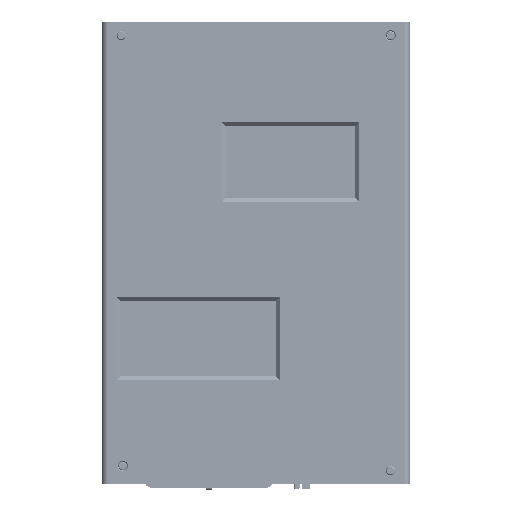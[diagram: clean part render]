
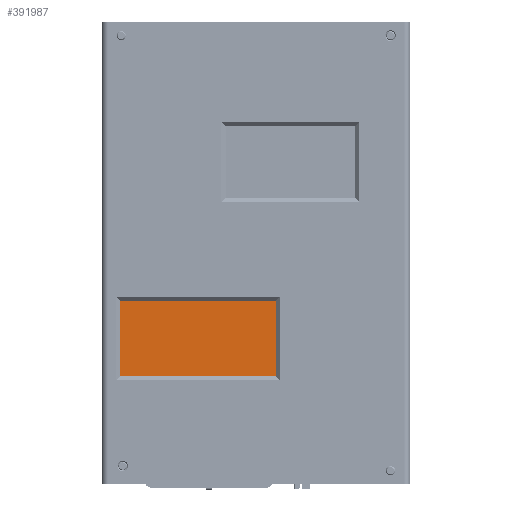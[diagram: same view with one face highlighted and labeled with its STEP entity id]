
A CAD part, front view. The second image highlights one B-rep face of the part: STEP entity #391987.
In plain terms, the highlighted planar face has unit normal (0, -1, 0).
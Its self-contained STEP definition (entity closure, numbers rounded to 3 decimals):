
#126402=DIRECTION('',(0.,0.,1.));
#126403=VECTOR('',#126402,24.775);
#126404=CARTESIAN_POINT('',(-44.737,1.4,-116.737));
#126405=LINE('',#126404,#126403);
#126409=DIRECTION('',(1.,0.,0.));
#126410=VECTOR('',#126409,51.275);
#126411=CARTESIAN_POINT('',(-44.737,1.4,-91.963));
#126412=LINE('',#126411,#126410);
#126416=DIRECTION('',(0.,0.,-1.));
#126417=VECTOR('',#126416,24.775);
#126418=CARTESIAN_POINT('',(6.537,1.4,-91.963));
#126419=LINE('',#126418,#126417);
#126423=DIRECTION('',(-1.,0.,0.));
#126424=VECTOR('',#126423,51.275);
#126425=CARTESIAN_POINT('',(6.537,1.4,-116.737));
#126426=LINE('',#126425,#126424);
#237324=CARTESIAN_POINT('',(-44.737,1.4,-116.737));
#237325=CARTESIAN_POINT('',(-44.737,1.4,-91.963));
#237326=VERTEX_POINT('',#237324);
#237327=VERTEX_POINT('',#237325);
#237328=CARTESIAN_POINT('',(6.537,1.4,-116.737));
#237329=VERTEX_POINT('',#237328);
#237330=CARTESIAN_POINT('',(6.537,1.4,-91.963));
#237331=VERTEX_POINT('',#237330);
#391976=CARTESIAN_POINT('',(-19.1,1.4,-104.35));
#391977=DIRECTION('',(0.,-1.,0.));
#391978=DIRECTION('',(1.,0.,0.));
#391979=AXIS2_PLACEMENT_3D('',#391976,#391977,#391978);
#391980=PLANE('',#391979);
#391981=ORIENTED_EDGE('',*,*,#391963,.T.);
#391982=ORIENTED_EDGE('',*,*,#391900,.T.);
#391983=ORIENTED_EDGE('',*,*,#391922,.T.);
#391984=ORIENTED_EDGE('',*,*,#391943,.T.);
#391985=EDGE_LOOP('',(#391981,#391982,#391983,#391984));
#391986=FACE_OUTER_BOUND('',#391985,.F.);
#391987=ADVANCED_FACE('',(#391986),#391980,.T.);
#391900=EDGE_CURVE('',#237327,#237331,#126412,.T.);
#391922=EDGE_CURVE('',#237331,#237329,#126419,.T.);
#391943=EDGE_CURVE('',#237329,#237326,#126426,.T.);
#391963=EDGE_CURVE('',#237326,#237327,#126405,.T.);
